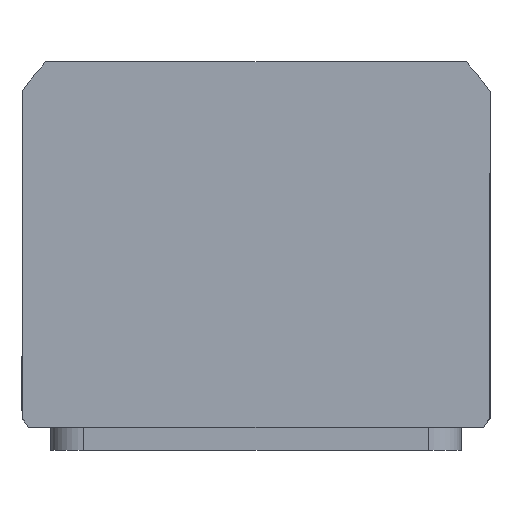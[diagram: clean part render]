
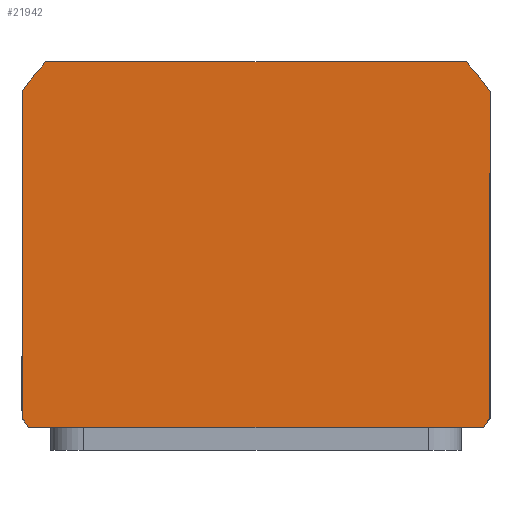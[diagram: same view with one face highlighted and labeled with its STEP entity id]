
A CAD part, top view. The second image highlights one B-rep face of the part: STEP entity #21942.
In plain terms, the highlighted planar face has unit normal (0, 0, 1) as drawn and (0, 0, -1) by its records, which use the part's own axes.
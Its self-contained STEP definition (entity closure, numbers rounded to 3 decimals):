
#182 = DIRECTION ( 'NONE',  ( 1., 0., 0. ) ) ;
#1008 = CARTESIAN_POINT ( 'NONE',  ( -57., -37.265, 0. ) ) ;
#1520 = ORIENTED_EDGE ( 'NONE', *, *, #18150, .F. ) ;
#1713 = VECTOR ( 'NONE', #5930, 1000. ) ;
#2017 = EDGE_CURVE ( 'NONE', #18640, #8178, #15320, .T. ) ;
#2578 = VERTEX_POINT ( 'NONE', #11364 ) ;
#3507 = DIRECTION ( 'NONE',  ( 0., -1., 0. ) ) ;
#3563 = CARTESIAN_POINT ( 'NONE',  ( -57., -44.5, 0. ) ) ;
#3872 = LINE ( 'NONE', #3563, #22174 ) ;
#4159 = CARTESIAN_POINT ( 'NONE',  ( -57., 44.5, 0. ) ) ;
#5166 = ORIENTED_EDGE ( 'NONE', *, *, #18324, .F. ) ;
#5192 = DIRECTION ( 'NONE',  ( 1., 0., 0. ) ) ;
#5207 = DIRECTION ( 'NONE',  ( 0., 0., 1. ) ) ;
#5422 = ORIENTED_EDGE ( 'NONE', *, *, #11783, .F. ) ;
#5593 = DIRECTION ( 'NONE',  ( 1., 0., 0. ) ) ;
#5698 = CARTESIAN_POINT ( 'NONE',  ( 55.374, 44.5, 0. ) ) ;
#5761 = DIRECTION ( 'NONE',  ( 0., 1., 0. ) ) ;
#5789 = CIRCLE ( 'NONE', #10999, 69.5 ) ;
#5910 = FACE_OUTER_BOUND ( 'NONE', #18007, .T. ) ;
#5930 = DIRECTION ( 'NONE',  ( -1., 0., 0. ) ) ;
#6315 = CARTESIAN_POINT ( 'NONE',  ( 57., 42.265, 0. ) ) ;
#6365 = CARTESIAN_POINT ( 'NONE',  ( -51.198, -44.5, 0. ) ) ;
#6437 = CARTESIAN_POINT ( 'NONE',  ( -55.374, 44.5, 0. ) ) ;
#6672 = CARTESIAN_POINT ( 'NONE',  ( 0., 2.5, 0. ) ) ;
#7110 = VECTOR ( 'NONE', #3507, 1000. ) ;
#7364 = LINE ( 'NONE', #18157, #12097 ) ;
#7692 = LINE ( 'NONE', #15890, #7110 ) ;
#8178 = VERTEX_POINT ( 'NONE', #6437 ) ;
#8312 = DIRECTION ( 'NONE',  ( 0., 0., 1. ) ) ;
#8437 = DIRECTION ( 'NONE',  ( 1., 0., 0. ) ) ;
#8568 = AXIS2_PLACEMENT_3D ( 'NONE', #6672, #19073, #8437 ) ;
#9062 = CARTESIAN_POINT ( 'NONE',  ( 0., 0., 0. ) ) ;
#9475 = ORIENTED_EDGE ( 'NONE', *, *, #2017, .F. ) ;
#9651 = AXIS2_PLACEMENT_3D ( 'NONE', #9062, #16192, #5593 ) ;
#10430 = EDGE_CURVE ( 'NONE', #8178, #11955, #17448, .T. ) ;
#10776 = DIRECTION ( 'NONE',  ( 0., 0., 1. ) ) ;
#10999 = AXIS2_PLACEMENT_3D ( 'NONE', #21381, #10776, #182 ) ;
#11364 = CARTESIAN_POINT ( 'NONE',  ( 57., -37.265, 0. ) ) ;
#11633 = CIRCLE ( 'NONE', #8568, 69.5 ) ;
#11783 = EDGE_CURVE ( 'NONE', #17298, #19852, #3872, .T. ) ;
#11948 = ORIENTED_EDGE ( 'NONE', *, *, #20827, .F. ) ;
#11955 = VERTEX_POINT ( 'NONE', #18050 ) ;
#12097 = VECTOR ( 'NONE', #5761, 1000. ) ;
#13478 = VERTEX_POINT ( 'NONE', #1008 ) ;
#13522 = VERTEX_POINT ( 'NONE', #6315 ) ;
#13720 = EDGE_CURVE ( 'NONE', #13478, #17298, #11633, .T. ) ;
#13903 = EDGE_CURVE ( 'NONE', #13522, #18640, #5789, .T. ) ;
#14431 = PLANE ( 'NONE',  #9651 ) ;
#14514 = AXIS2_PLACEMENT_3D ( 'NONE', #18951, #8312, #20745 ) ;
#15000 = CARTESIAN_POINT ( 'NONE',  ( 51.198, -44.5, 0. ) ) ;
#15195 = ORIENTED_EDGE ( 'NONE', *, *, #10430, .F. ) ;
#15320 = LINE ( 'NONE', #4159, #1713 ) ;
#15815 = CARTESIAN_POINT ( 'NONE',  ( 0., 2.5, 0. ) ) ;
#15890 = CARTESIAN_POINT ( 'NONE',  ( -57., 44.5, 0. ) ) ;
#16192 = DIRECTION ( 'NONE',  ( 0., 0., 1. ) ) ;
#16373 = ORIENTED_EDGE ( 'NONE', *, *, #13720, .F. ) ;
#17298 = VERTEX_POINT ( 'NONE', #6365 ) ;
#17448 = CIRCLE ( 'NONE', #14514, 69.5 ) ;
#17593 = DIRECTION ( 'NONE',  ( 1., 0., 0. ) ) ;
#18007 = EDGE_LOOP ( 'NONE', ( #18456, #11948, #1520, #5422, #16373, #5166, #15195, #9475 ) ) ;
#18050 = CARTESIAN_POINT ( 'NONE',  ( -57., 42.265, 0. ) ) ;
#18150 = EDGE_CURVE ( 'NONE', #19852, #2578, #21266, .T. ) ;
#18157 = CARTESIAN_POINT ( 'NONE',  ( 57., 44.5, 0. ) ) ;
#18324 = EDGE_CURVE ( 'NONE', #11955, #13478, #7692, .T. ) ;
#18456 = ORIENTED_EDGE ( 'NONE', *, *, #13903, .F. ) ;
#18640 = VERTEX_POINT ( 'NONE', #5698 ) ;
#18951 = CARTESIAN_POINT ( 'NONE',  ( 0., 2.5, 0. ) ) ;
#19073 = DIRECTION ( 'NONE',  ( 0., 0., 1. ) ) ;
#19852 = VERTEX_POINT ( 'NONE', #15000 ) ;
#20745 = DIRECTION ( 'NONE',  ( 1., 0., 0. ) ) ;
#20827 = EDGE_CURVE ( 'NONE', #2578, #13522, #7364, .T. ) ;
#21266 = CIRCLE ( 'NONE', #22227, 69.5 ) ;
#21381 = CARTESIAN_POINT ( 'NONE',  ( 0., 2.5, 0. ) ) ;
#21942 = ADVANCED_FACE ( 'NONE', ( #5910 ), #14431, .F. ) ;
#22174 = VECTOR ( 'NONE', #5192, 1000. ) ;
#22227 = AXIS2_PLACEMENT_3D ( 'NONE', #15815, #5207, #17593 ) ;
